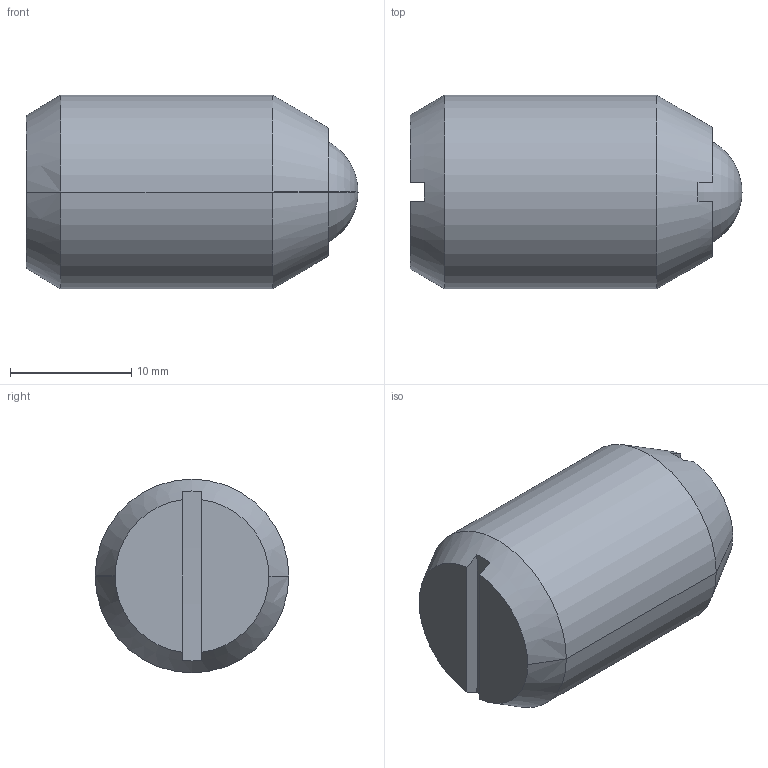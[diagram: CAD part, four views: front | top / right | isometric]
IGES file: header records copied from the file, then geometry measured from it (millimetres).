
Start section:  PTC IGES file: b62-3d.igs
Global section: file name: b62-3d.igs; native system: Pro/ENGINEER by Parametric Technology Corporation; preprocessor: 2002350; author: chant; organization: Unknown; date: 061025.163447; units: inch
Bounding box: 27.43 x 16 x 16 mm (x, y, z)
Surface area: 2088.3 mm2 (no closed solid volume)
Topology: 0 solids, 0 shells, 24 faces, 174 edges, 220 vertices
Faces by surface type: revolution 13, bspline 11
